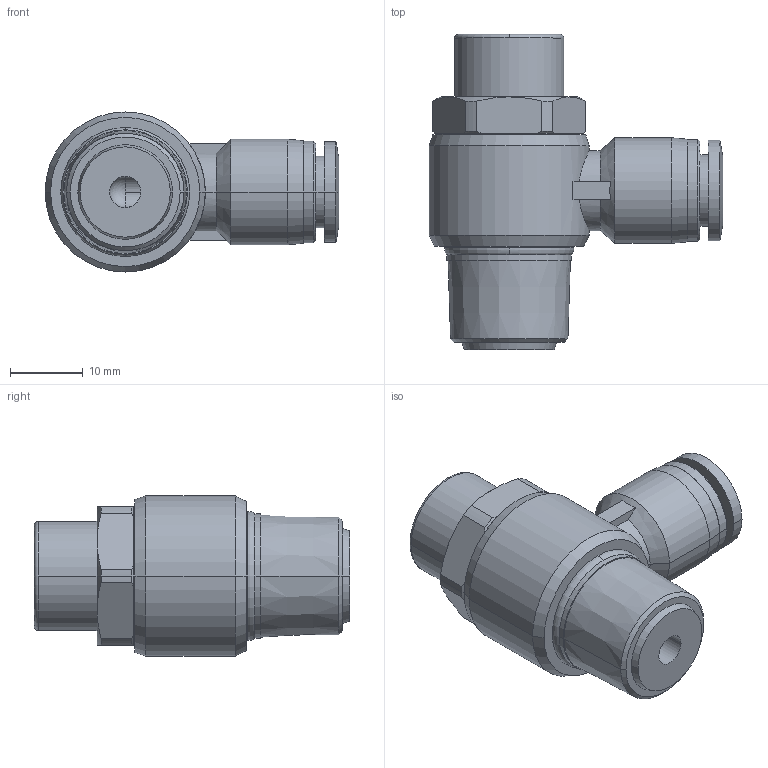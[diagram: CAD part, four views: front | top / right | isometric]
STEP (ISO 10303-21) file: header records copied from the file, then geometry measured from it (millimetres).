
FILE_DESCRIPTION (( 'STEP AP203' ), '1' );
FILE_NAME ('SCLF08-03.STEP', '2020-05-13T17:31:28', ( '' ), ( '' ), 'SwSTEP 2.0', 'SolidWorks 2019', '' );
FILE_SCHEMA (( 'CONFIG_CONTROL_DESIGN' ));
Length unit declared in the file: millimetre
Products named in the file (1): SCLF08-03
Bounding box: 40.35 x 43.3 x 22 mm (x, y, z)
Volume: 12715.8 mm3; surface area: 5703.8 mm2
Topology: 1 solids, 1 shells, 141 faces, 338 edges, 208 vertices
Faces by surface type: plane 52, cylinder 43, cone 39, torus 4, bspline 2, sphere 1
Entity records: 4304 total; most frequent: CARTESIAN_POINT 961, DIRECTION 729, ORIENTED_EDGE 670, EDGE_CURVE 335, AXIS2_PLACEMENT_3D 296, VERTEX_POINT 208, CIRCLE 156, EDGE_LOOP 155
